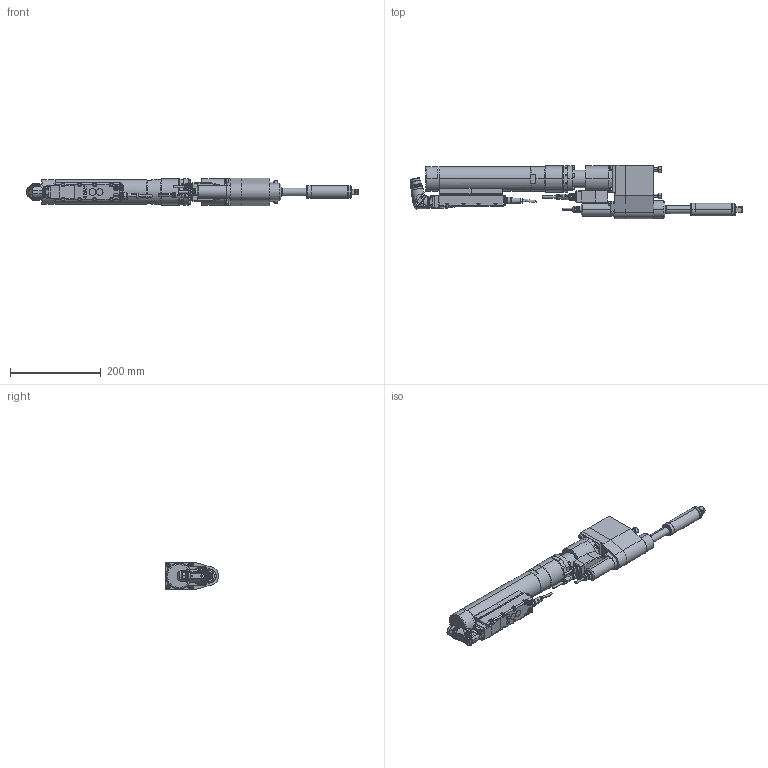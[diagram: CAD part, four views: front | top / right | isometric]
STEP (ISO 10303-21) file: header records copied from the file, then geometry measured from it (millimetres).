
FILE_DESCRIPTION (( 'STEP AP214' ), '1' );
FILE_NAME ('70082488_ESX206ZWRX140AODX250-140.STEP', '2018-11-28T08:29:51', ( 'admin' ), ( '' ), 'SwSTEP 2.0', 'SolidWorks 2017', '' );
FILE_SCHEMA (( 'AUTOMOTIVE_DESIGN' ));
Length unit declared in the file: millimetre
Products named in the file (11): 70082303_ESX206_Standard_Winkel; 70082293_2; 70057493_Standard_winkel; 70057493_4; 70057493_3; 70057493_2; 70082303; 70082488_ESX206ZWRX140AODX250-140; 7002049_3; 70082382; 70082332
Assembly tree (10 placements, depth 4):
  70082488_ESX206ZWRX140AODX250-140
    70082303_ESX206_Standard_Winkel
      70082303
      70057493_Standard_winkel
        70057493_2
        70057493_3
        70057493_4
      70082293_2
    70082332
    70082382
    7002049_3
Bounding box: 731.86 x 117.32 x 60 mm (x, y, z)
Volume: 2008505.8 mm3; surface area: 234861.5 mm2
Topology: 12 solids, 13 shells, 3185 faces, 8191 edges, 5209 vertices
Faces by surface type: plane 1347, cylinder 929, cone 462, bspline 307, torus 135, sphere 5
Entity records: 112701 total; most frequent: CARTESIAN_POINT 34935, ORIENTED_EDGE 16234, DIRECTION 14646, EDGE_CURVE 8117, AXIS2_PLACEMENT_3D 5494, VERTEX_POINT 5208, VECTOR 3658, LINE 3658
